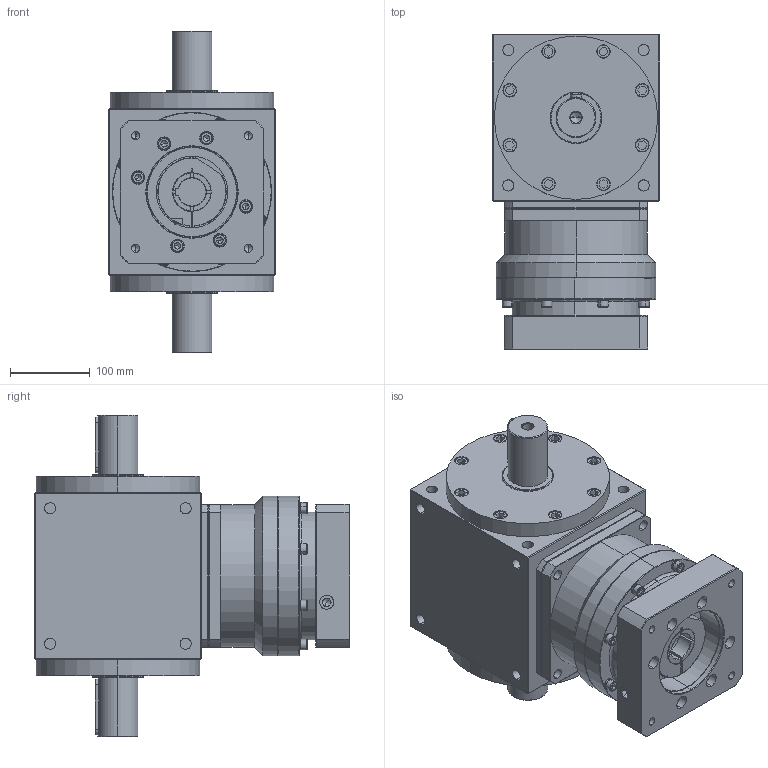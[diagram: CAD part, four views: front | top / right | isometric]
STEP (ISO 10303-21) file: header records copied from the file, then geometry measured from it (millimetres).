
FILE_DESCRIPTION (( 'STEP AP203' ), '1' );
FILE_NAME ('AT210-FL-L1 35-114.3-200-M12.STEP', '2024-12-30T06:37:23', ( '' ), ( '' ), 'SwSTEP 2.0', 'SolidWorks 2021', '' );
FILE_SCHEMA (( 'CONFIG_CONTROL_DESIGN' ));
Length unit declared in the file: millimetre
Products named in the file (3): AT210-FL-L1 35-114.3-200-M12; KS180L1-114.3-35-82-M12-200俋倛芞
Assembly tree (2 placements, depth 2):
  AT210-FL-L1 35-114.3-200-M12
    AT210-FL-L1 35-114.3-200-M12
    KS180L1-114.3-35-82-M12-200俋倛芞
Bounding box: 210 x 396 x 404 mm (x, y, z)
Volume: 15567710.1 mm3; surface area: 769722.2 mm2
Topology: 36 solids, 36 shells, 1217 faces, 2864 edges, 1771 vertices
Faces by surface type: plane 584, cylinder 438, cone 159, bspline 36
Entity records: 35586 total; most frequent: CARTESIAN_POINT 7552, DIRECTION 5971, ORIENTED_EDGE 5616, EDGE_CURVE 2808, AXIS2_PLACEMENT_3D 2260, VERTEX_POINT 1771, VECTOR 1451, LINE 1451
